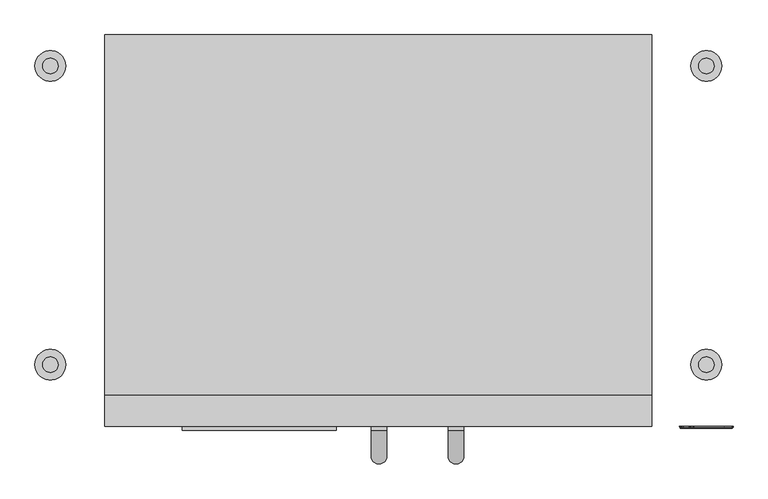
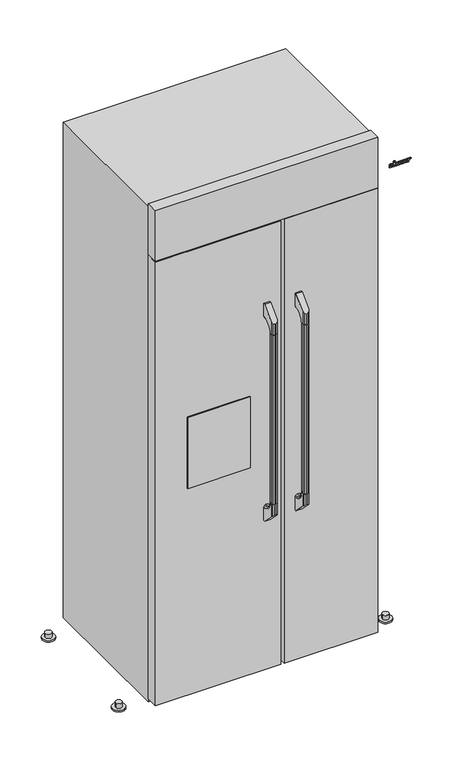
"""IFC4 building model written with IfcOpenShell, lengths in millimetres: proxy geometry, Refrigeration-Dacor-Epicure-48_42_Built_In : EF48NBSSCH."""

from ifc_helpers import new_model, si_unit, point, frame, frame_2d, origin, origin_with_axes, place, context, project, spatial, polyline, circle_curve, trimmed, segment, composite_curve, outline, extrude, source, transform, mapped, element, save
from ifc_brep_helpers import plane_surface, revolved_surface, spline_surface, advanced_brep


def specialty_equipment_6bfc070b(model_context):
    return source(origin(), model_context, "Body", "SolidModel", [
        extrude(outline(polyline([(2011.7943445, 496.877016), (2010.5604593, 497.878391), (2010.171875, 499.2560989), (2010.171875, 511.7948685), (2010.4323242, 512.9482864), (2011.251991, 513.97287), (2012.2388426, 514.436046), (2018.8783203, 515.8471929), (2018.8783203, 518.0456497), (2020.5898438, 518.41772), (2022.2641602, 518.7525833), (2022.2641602, 516.5201614), (2026.5057617, 517.4131302), (2030.7473633, 518.3060989), (2030.7473633, 514.3474352), (2022.2641602, 512.5462738), (2022.2641602, 502.2869491), (2021.8044832, 500.3060218), (2020.5344845, 498.7388452), (2018.6929847, 497.880322), (2013.336123, 496.7398635), (2011.7943445, 496.877016)]), holes=[polyline([(2013.5205078, 501.9350052), (2013.8714606, 501.2330996), (2014.6739258, 501.0420364), (2017.6348595, 501.6787964), (2018.5678527, 502.1290474), (2018.8783203, 503.0741012), (2018.8783203, 511.8320755), (2014.6298936, 510.9340341), (2013.7723775, 510.4187864), (2013.5205078, 509.4085923), (2013.5205078, 501.9350052)])]), frame((0.0, -350.8375, 0.0), z_axis=(0.0, 1.0, 0.0), x_axis=(0.0, 0.0, 1.0)), (0.0, 0.0, 1.0), 1.5875),
        extrude(outline(polyline([(2022.2641602, 520.0849851), (2018.8783203, 519.3650979), (2018.8783203, 530.0788078), (2017.8217624, 529.8538549), (2017.8217624, 519.1418688), (2017.5388672, 518.0456497), (2016.7947266, 517.152681), (2015.7157227, 516.6317825), (2014.5250977, 516.3713333), (2013.3344727, 516.1108841), (2011.8089844, 516.2597122), (2010.6183594, 517.227095), (2010.171875, 518.7153763), (2010.171875, 530.0635208), (2010.4323242, 531.1797318), (2011.1764648, 532.1099075), (2012.2554688, 532.630806), (2015.6413086, 533.3377396), (2019.0643555, 534.0818802), (2020.6270508, 533.9330521), (2021.8176758, 532.9656693), (2022.2641602, 531.514595), (2022.2641602, 520.0849851)]), holes=[polyline([(2014.5995117, 520.4641068), (2014.5995117, 529.1705521), (2013.5205078, 528.9473099), (2013.5205078, 520.2408646), (2014.5995117, 520.4641068)])]), frame((0.0, -350.8375, 0.0), z_axis=(0.0, 1.0, 0.0), x_axis=(0.0, 0.0, 1.0)), (0.0, 0.0, 1.0), 1.5875),
        extrude(outline(polyline([(2010.1535047, 537.0119526), (2010.1535047, 548.0038727), (2010.3752401, 548.777156), (2011.0722362, 549.1712144), (2012.3670138, 549.446239), (2013.2376148, 549.2129622), (2013.5205078, 548.226397), (2013.5205078, 539.7349988), (2013.8949249, 538.9521367), (2014.7128043, 538.7540141), (2017.8777256, 539.4286513), (2018.6463817, 539.837353), (2018.8783203, 540.9285384), (2018.8783203, 549.8518865), (2019.130028, 550.6265631), (2019.8374357, 551.0349851), (2021.1329359, 551.3105901), (2021.9592122, 551.0579721), (2022.2641602, 550.2201343), (2022.2641602, 538.3978958), (2022.0037109, 537.2816849), (2021.2595703, 536.3515091), (2020.1805664, 535.8306107), (2016.7575195, 535.1236771), (2013.3344727, 534.3795364), (2011.8089844, 534.5283646), (2010.5811523, 535.4957474), (2010.1535047, 537.0119526)])), frame((0.0, -350.8375, 0.0), z_axis=(0.0, 1.0, 0.0), x_axis=(0.0, 0.0, 1.0)), (0.0, 0.0, 1.0), 1.5875),
        extrude(outline(polyline([(2010.1535047, 553.7551166), (2010.1535047, 565.5306985), (2010.4202036, 566.6889369), (2011.1618825, 567.6058625), (2012.2388426, 568.1087873), (2019.0790652, 569.5616782), (2020.6208436, 569.4245015), (2021.8070237, 568.4618423), (2022.2641602, 566.9837711), (2022.2641602, 555.1410599), (2022.0037109, 553.9876419), (2021.2595703, 553.0574661), (2020.1805664, 552.5737747), (2016.7575195, 551.8296341), (2013.3344727, 551.1227005), (2011.8089844, 551.2343216), (2010.5811523, 552.2389114), (2010.1535047, 553.7551166)]), holes=[polyline([(2013.5205078, 563.4025467), (2013.5205078, 556.3316849), (2013.8925781, 555.5875443), (2014.7111328, 555.3643021), (2017.9088335, 556.0670934), (2018.6090587, 556.4394098), (2018.8783203, 557.2681117), (2018.8783203, 564.1439525), (2018.5470635, 565.0811293), (2017.6734773, 565.3018185), (2016.0505859, 564.9637161), (2014.5473546, 564.6438797), (2013.8001356, 564.2631526), (2013.5205078, 563.4025467)])]), frame((0.0, -350.8375, 0.0), z_axis=(0.0, 1.0, 0.0), x_axis=(0.0, 0.0, 1.0)), (0.0, 0.0, 1.0), 1.5875),
        extrude(outline(polyline([(2021.3463695, 571.781616), (2010.171875, 569.405565), (2010.171875, 573.4263733), (2017.5195038, 574.9896415), (2018.4999429, 575.5890962), (2018.8783203, 576.6590724), (2018.8783203, 581.9049579), (2022.2641602, 582.6248693), (2022.2641602, 576.9478784), (2021.5479431, 575.8456212), (2022.2641602, 575.1294011), (2022.2641602, 572.9846956), (2022.0328275, 572.1779426), (2021.3463695, 571.781616)])), frame((0.0, -350.8375, 0.0), z_axis=(0.0, 1.0, 0.0), x_axis=(0.0, 0.0, 1.0)), (0.0, 0.0, 1.0), 1.5875),
        advanced_brep(
        [(497.6561966, -349.25, 2009.3905273), (498.4747513, -349.25, 2009.2044922), (499.2670571, -349.25, 2008.9978037), (572.7473463, -349.25, 2008.9978037), (574.0050247, -349.25, 2009.4649414), (574.7119583, -349.25, 2010.6183594), (576.2002396, -349.25, 2017.7249023), (581.520845, -349.25, 2017.7249023), (582.5626419, -349.25, 2018.0969727), (583.1207474, -349.25, 2019.0271484), (583.6416458, -349.25, 2021.4456055), (583.5672318, -349.25, 2022.4129883), (582.9719193, -349.25, 2023.1199219), (582.0417435, -349.25, 2023.4175781), (518.0084427, -349.25, 2023.4175781), (519.3851029, -349.25, 2029.9660156), (519.3106888, -349.25, 2030.8961914), (518.7153763, -349.25, 2031.640332), (517.7852005, -349.25, 2031.9007813), (514.7342239, -349.25, 2031.9007813), (513.6924271, -349.25, 2031.565918), (513.1343216, -349.25, 2030.6357422), (511.6088333, -349.25, 2023.4175781), (502.2698685, -349.25, 2023.4175781), (500.3723099, -349.25, 2023.0827148), (498.7352005, -349.25, 2022.1525391), (497.4701614, -349.25, 2020.7386719), (496.7632279, -349.25, 2018.9527344), (495.6098099, -349.25, 2013.6321289), (495.6098099, -349.25, 2011.9206055), (496.3539505, -349.25, 2010.4323242), (497.6189896, -347.6625, 2009.2789063), (496.2423294, -347.6625, 2010.3579102), (495.4981888, -347.6625, 2011.8833984), (495.4981888, -347.6625, 2013.5949219), (496.6516068, -347.6625, 2018.9527344), (497.3585404, -347.6625, 2020.7758789), (498.6607864, -347.6625, 2022.2641602), (500.3351029, -347.6625, 2023.1943359), (502.2698685, -347.6625, 2023.5291992), (511.4972122, -347.6625, 2023.5291992), (513.0227005, -347.6625, 2030.6357422), (513.618013, -347.6625, 2031.640332), (514.7342239, -347.6625, 2032.0124023), (517.7852005, -347.6625, 2032.0124023), (518.7897904, -347.6625, 2031.7147461), (519.4223099, -347.6625, 2030.9333984), (519.4967239, -347.6625, 2029.9288086), (518.1572708, -347.6625, 2023.5291992), (582.0417435, -347.6625, 2023.5291992), (583.0091263, -347.6625, 2023.231543), (583.6788529, -347.6625, 2022.4501953), (583.7532669, -347.6625, 2021.4456055), (583.2323685, -347.6625, 2018.9899414), (582.637056, -347.6625, 2017.9853516), (581.520845, -347.6625, 2017.6132813), (576.3118607, -347.6625, 2017.6132813), (574.8235794, -347.6625, 2010.5811523), (574.0794388, -347.6625, 2009.3533203), (572.7027786, -347.6625, 2008.8696289), (499.330513, -347.6625, 2008.8696289), (498.4747513, -347.6625, 2009.0556641)],
        [
            (0, 1),
            (1, 2),
            (2, 3),
            (3, 4),
            (4, 5),
            (5, 6),
            (6, 7),
            (7, 8),
            (8, 9),
            (9, 10),
            (10, 11),
            (11, 12),
            (12, 13),
            (13, 14),
            (14, 15),
            (15, 16),
            (16, 17),
            (17, 18),
            (18, 19),
            (19, 20),
            (20, 21),
            (21, 22),
            (22, 23),
            (23, 24),
            (24, 25),
            (25, 26),
            (26, 27),
            (27, 28),
            (28, 29),
            (29, 30),
            (30, 0),
            (31, 32),
            (32, 33),
            (33, 34),
            (34, 35),
            (35, 36),
            (36, 37),
            (37, 38),
            (38, 39),
            (39, 40),
            (40, 41),
            (41, 42),
            (42, 43),
            (43, 44),
            (44, 45),
            (45, 46),
            (46, 47),
            (47, 48),
            (48, 49),
            (49, 50),
            (50, 51),
            (51, 52),
            (52, 53),
            (53, 54),
            (54, 55),
            (55, 56),
            (56, 57),
            (57, 58),
            (58, 59),
            (59, 60),
            (60, 61),
            (61, 31),
            (61, 1),
            (0, 31),
            (60, 2),
            (59, 3),
            (58, 4),
            (57, 5),
            (56, 6),
            (55, 7),
            (54, 8),
            (53, 9),
            (52, 10),
            (51, 11),
            (50, 12),
            (49, 13),
            (48, 14),
            (47, 15),
            (46, 16),
            (45, 17),
            (44, 18),
            (43, 19),
            (42, 20),
            (41, 21),
            (40, 22),
            (39, 23),
            (38, 24),
            (37, 25),
            (36, 26),
            (35, 27),
            (34, 28),
            (33, 29),
            (32, 30),
        ],
        [
            plane_surface(frame((532.3241388, -349.25, 2020.3004568), z_axis=(0.0, -1.0000000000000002, 0.0), x_axis=(0.9374252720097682, 0.0, 0.3481865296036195))),
            plane_surface(frame((532.3307493, -347.6625, 2020.3017893), z_axis=(0.0, 1.0000000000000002, 0.0), x_axis=(0.9374252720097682, 0.0, 0.3481865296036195))),
            spline_surface(1, 1, [[(497.6189896, -347.6625, 2009.2789063), (497.6561966, -349.25, 2009.3905273)], [(498.4747513, -347.6625, 2009.0556641), (498.4747513, -349.25, 2009.2044922)]], [2, 2], [2, 2], [0.0, 1.0], [0.0, 1.0]),
            spline_surface(1, 1, [[(498.4747513, -347.6625, 2009.0556641), (498.4747513, -349.25, 2009.2044922)], [(499.330513, -347.6625, 2008.8696289), (499.2670571, -349.25, 2008.9978037)]], [2, 2], [2, 2], [0.0, 1.0], [0.0, 1.0]),
            plane_surface(frame((536.0166458, -347.6625, 2008.8696289), z_axis=(0.0, -0.0804781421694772, -0.9967563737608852), x_axis=(1.0, 0.0, 0.0))),
            spline_surface(1, 1, [[(572.7027786, -347.6625, 2008.8696289), (572.7473463, -349.25, 2008.9978037)], [(574.0794388, -347.6625, 2009.3533203), (574.0050247, -349.25, 2009.4649414)]], [2, 2], [2, 2], [0.0, 1.0], [0.0, 1.0]),
            spline_surface(1, 1, [[(574.0794388, -347.6625, 2009.3533203), (574.0050247, -349.25, 2009.4649414)], [(574.8235794, -347.6625, 2010.5811523), (574.7119583, -349.25, 2010.6183594)]], [2, 2], [2, 2], [0.0, 1.0], [0.0, 1.0]),
            spline_surface(1, 1, [[(574.8235794, -347.6625, 2010.5811523), (574.7119583, -349.25, 2010.6183594)], [(576.3118607, -347.6625, 2017.6132813), (576.2002396, -349.25, 2017.7249023)]], [2, 2], [2, 2], [0.0, 1.0], [0.0, 1.0]),
            plane_surface(frame((578.9163529, -347.6625, 2017.6132813), z_axis=(0.0, -0.07013933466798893, -0.9975372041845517), x_axis=(1.0, 0.0, 0.0))),
            spline_surface(1, 1, [[(581.520845, -347.6625, 2017.6132813), (581.520845, -349.25, 2017.7249023)], [(582.637056, -347.6625, 2017.9853516), (582.5626419, -349.25, 2018.0969727)]], [2, 2], [2, 2], [0.0, 1.0], [0.0, 1.0]),
            spline_surface(1, 1, [[(582.637056, -347.6625, 2017.9853516), (582.5626419, -349.25, 2018.0969727)], [(583.2323685, -347.6625, 2018.9899414), (583.1207474, -349.25, 2019.0271484)]], [2, 2], [2, 2], [0.0, 1.0], [0.0, 1.0]),
            spline_surface(1, 1, [[(583.2323685, -347.6625, 2018.9899414), (583.1207474, -349.25, 2019.0271484)], [(583.7532669, -347.6625, 2021.4456055), (583.6416458, -349.25, 2021.4456055)]], [2, 2], [2, 2], [0.0, 1.0], [0.0, 1.0]),
            spline_surface(1, 1, [[(583.7532669, -347.6625, 2021.4456055), (583.6416458, -349.25, 2021.4456055)], [(583.6788529, -347.6625, 2022.4501953), (583.5672318, -349.25, 2022.4129883)]], [2, 2], [2, 2], [0.0, 1.0], [0.0, 1.0]),
            spline_surface(1, 1, [[(583.6788529, -347.6625, 2022.4501953), (583.5672318, -349.25, 2022.4129883)], [(583.0091263, -347.6625, 2023.231543), (582.9719193, -349.25, 2023.1199219)]], [2, 2], [2, 2], [0.0, 1.0], [0.0, 1.0]),
            spline_surface(1, 1, [[(583.0091263, -347.6625, 2023.231543), (582.9719193, -349.25, 2023.1199219)], [(582.0417435, -347.6625, 2023.5291992), (582.0417435, -349.25, 2023.4175781)]], [2, 2], [2, 2], [0.0, 1.0], [0.0, 1.0]),
            plane_surface(frame((550.0995072, -347.6625, 2023.5291992), z_axis=(0.0, -0.07013933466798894, 0.9975372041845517), x_axis=(-1.0, 0.0, 0.0))),
            spline_surface(1, 1, [[(518.1572708, -347.6625, 2023.5291992), (518.0084427, -349.25, 2023.4175781)], [(519.4967239, -347.6625, 2029.9288086), (519.3851029, -349.25, 2029.9660156)]], [2, 2], [2, 2], [0.0, 1.0], [0.0, 1.0]),
            spline_surface(1, 1, [[(519.4967239, -347.6625, 2029.9288086), (519.3851029, -349.25, 2029.9660156)], [(519.4223099, -347.6625, 2030.9333984), (519.3106888, -349.25, 2030.8961914)]], [2, 2], [2, 2], [0.0, 1.0], [0.0, 1.0]),
            spline_surface(1, 1, [[(519.4223099, -347.6625, 2030.9333984), (519.3106888, -349.25, 2030.8961914)], [(518.7897904, -347.6625, 2031.7147461), (518.7153763, -349.25, 2031.640332)]], [2, 2], [2, 2], [0.0, 1.0], [0.0, 1.0]),
            spline_surface(1, 1, [[(518.7897904, -347.6625, 2031.7147461), (518.7153763, -349.25, 2031.640332)], [(517.7852005, -347.6625, 2032.0124023), (517.7852005, -349.25, 2031.9007813)]], [2, 2], [2, 2], [0.0, 1.0], [0.0, 1.0]),
            plane_surface(frame((516.2597122, -347.6625, 2032.0124023), z_axis=(0.0, -0.07013933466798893, 0.9975372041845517), x_axis=(-1.0, 0.0, 0.0))),
            spline_surface(1, 1, [[(514.7342239, -347.6625, 2032.0124023), (514.7342239, -349.25, 2031.9007813)], [(513.618013, -347.6625, 2031.640332), (513.6924271, -349.25, 2031.565918)]], [2, 2], [2, 2], [0.0, 1.0], [0.0, 1.0]),
            spline_surface(1, 1, [[(513.618013, -347.6625, 2031.640332), (513.6924271, -349.25, 2031.565918)], [(513.0227005, -347.6625, 2030.6357422), (513.1343216, -349.25, 2030.6357422)]], [2, 2], [2, 2], [0.0, 1.0], [0.0, 1.0]),
            spline_surface(1, 1, [[(513.0227005, -347.6625, 2030.6357422), (513.1343216, -349.25, 2030.6357422)], [(511.4972122, -347.6625, 2023.5291992), (511.6088333, -349.25, 2023.4175781)]], [2, 2], [2, 2], [0.0, 1.0], [0.0, 1.0]),
            plane_surface(frame((506.8835404, -347.6625, 2023.5291992), z_axis=(0.0, -0.07013933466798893, 0.9975372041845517), x_axis=(-1.0, 0.0, 0.0))),
            spline_surface(1, 1, [[(502.2698685, -347.6625, 2023.5291992), (502.2698685, -349.25, 2023.4175781)], [(500.3351029, -347.6625, 2023.1943359), (500.3723099, -349.25, 2023.0827148)]], [2, 2], [2, 2], [0.0, 1.0], [0.0, 1.0]),
            spline_surface(1, 1, [[(500.3351029, -347.6625, 2023.1943359), (500.3723099, -349.25, 2023.0827148)], [(498.6607864, -347.6625, 2022.2641602), (498.7352005, -349.25, 2022.1525391)]], [2, 2], [2, 2], [0.0, 1.0], [0.0, 1.0]),
            spline_surface(1, 1, [[(498.6607864, -347.6625, 2022.2641602), (498.7352005, -349.25, 2022.1525391)], [(497.3585404, -347.6625, 2020.7758789), (497.4701614, -349.25, 2020.7386719)]], [2, 2], [2, 2], [0.0, 1.0], [0.0, 1.0]),
            spline_surface(1, 1, [[(497.3585404, -347.6625, 2020.7758789), (497.4701614, -349.25, 2020.7386719)], [(496.6516068, -347.6625, 2018.9527344), (496.7632279, -349.25, 2018.9527344)]], [2, 2], [2, 2], [0.0, 1.0], [0.0, 1.0]),
            spline_surface(1, 1, [[(496.6516068, -347.6625, 2018.9527344), (496.7632279, -349.25, 2018.9527344)], [(495.4981888, -347.6625, 2013.5949219), (495.6098099, -349.25, 2013.6321289)]], [2, 2], [2, 2], [0.0, 1.0], [0.0, 1.0]),
            plane_surface(frame((495.4981888, -347.6625, 2012.7391602), z_axis=(-0.9975372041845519, -0.0701393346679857, 0.0), x_axis=(0.0, 0.0, -1.0))),
            spline_surface(1, 1, [[(495.4981888, -347.6625, 2011.8833984), (495.6098099, -349.25, 2011.9206055)], [(496.2423294, -347.6625, 2010.3579102), (496.3539505, -349.25, 2010.4323242)]], [2, 2], [2, 2], [0.0, 1.0], [0.0, 1.0]),
            spline_surface(1, 1, [[(496.2423294, -347.6625, 2010.3579102), (496.3539505, -349.25, 2010.4323242)], [(497.6189896, -347.6625, 2009.2789063), (497.6561966, -349.25, 2009.3905273)]], [2, 2], [2, 2], [0.0, 1.0], [0.0, 1.0]),
        ],
        [
            (0, [[1, 2, 3, 4, 5, 6, 7, 8, 9, 10, 11, 12, 13, 14, 15, 16, 17, 18, 19, 20, 21, 22, 23, 24, 25, 26, 27, 28, 29, 30, 31]]),
            (1, [[32, 33, 34, 35, 36, 37, 38, 39, 40, 41, 42, 43, 44, 45, 46, 47, 48, 49, 50, 51, 52, 53, 54, 55, 56, 57, 58, 59, 60, 61, 62]]),
            (2, [[-62, 63, -1, 64]]),
            (3, [[-61, 65, -2, -63]]),
            (4, [[-60, 66, -3, -65]]),
            (5, [[-59, 67, -4, -66]]),
            (6, [[-58, 68, -5, -67]]),
            (7, [[-57, 69, -6, -68]]),
            (8, [[-56, 70, -7, -69]]),
            (9, [[-55, 71, -8, -70]]),
            (10, [[-54, 72, -9, -71]]),
            (11, [[-53, 73, -10, -72]]),
            (12, [[-52, 74, -11, -73]]),
            (13, [[-51, 75, -12, -74]]),
            (14, [[-50, 76, -13, -75]]),
            (15, [[-49, 77, -14, -76]]),
            (16, [[-48, 78, -15, -77]]),
            (17, [[-47, 79, -16, -78]]),
            (18, [[-46, 80, -17, -79]]),
            (19, [[-45, 81, -18, -80]]),
            (20, [[-44, 82, -19, -81]]),
            (21, [[-43, 83, -20, -82]]),
            (22, [[-42, 84, -21, -83]]),
            (23, [[-41, 85, -22, -84]]),
            (24, [[-40, 86, -23, -85]]),
            (25, [[-39, 87, -24, -86]]),
            (26, [[-38, 88, -25, -87]]),
            (27, [[-37, 89, -26, -88]]),
            (28, [[-36, 90, -27, -89]]),
            (29, [[-35, 91, -28, -90]]),
            (30, [[-34, 92, -29, -91]]),
            (31, [[-33, 93, -30, -92]]),
            (32, [[-32, -64, -31, -93]]),
        ],
    ),
        extrude(outline(polyline([(137.1470453, -406.1720453), (131.2529547, -409.575), (124.4470453, -409.575), (118.5529547, -406.1720453), (115.15, -400.2779547), (115.15, -393.4720453), (118.5529547, -387.5779547), (124.4470453, -384.175), (131.2529547, -384.175), (137.1470453, -387.5779547), (140.55, -393.4720453), (140.55, -400.2779547), (137.1470453, -406.1720453)])), frame((0.0, 0.0, 781.05), z_axis=(0.0, 0.0, 1.0), x_axis=(1.0, 0.0, 0.0)), (0.0, 0.0, 1.0), 723.9),
        advanced_brep(
        [(115.15, -347.6625, 679.45), (140.55, -347.6625, 679.45), (140.55, -354.0125, 679.45), (115.15, -354.0125, 679.45), (115.15, -400.2779547, 781.05), (118.5529547, -406.1720453, 781.05), (124.4470453, -409.575, 781.05), (131.2529547, -409.575, 781.05), (137.1470453, -406.1720453, 781.05), (140.55, -400.2779547, 781.05), (140.55, -393.4720453, 781.05), (137.1470453, -387.5779547, 781.05), (131.2529547, -384.175, 781.05), (124.4470453, -384.175, 781.05), (118.5529547, -387.5779547, 781.05), (115.15, -393.4720453, 781.05), (115.15, -347.6625, 735.2404547), (118.5529547, -347.6625, 741.1345453), (124.4470453, -347.6625, 744.5375), (131.2529547, -347.6625, 744.5375), (137.1470453, -347.6625, 741.1345453), (140.55, -347.6625, 735.2404547), (140.55, -400.2779547, 725.7154547), (137.1470453, -406.1720453, 731.6095453), (131.2529547, -409.575, 735.0125), (124.4470453, -409.575, 735.0125), (118.5529547, -406.1720453, 731.6095453), (115.15, -400.2779547, 725.7154547)],
        [
            (0, 1),
            (1, 2),
            (2, 3),
            (3, 0),
            (4, 5),
            (5, 6),
            (6, 7),
            (7, 8),
            (8, 9),
            (9, 10),
            (10, 11),
            (11, 12),
            (12, 13),
            (13, 14),
            (14, 15),
            (15, 4),
            (0, 16),
            (16, 17),
            (17, 18),
            (18, 19),
            (19, 20),
            (20, 21),
            (21, 1),
            (21, 10, circle_curve(frame((140.55, -347.6625, 781.05), z_axis=(-1.0, 0.0, 0.0), x_axis=(0.0, 0.0, -1.0)), 45.8095453)),
            (9, 22),
            (22, 2),
            (8, 23),
            (23, 22),
            (7, 24),
            (24, 23),
            (6, 25),
            (25, 24),
            (5, 26),
            (26, 25),
            (4, 27),
            (27, 26),
            (3, 27),
            (15, 16, circle_curve(frame((115.15, -347.6625, 781.05), z_axis=(1.0, 0.0, 0.0), x_axis=(0.0, 0.0, -1.0)), 45.8095453)),
            (20, 11, circle_curve(frame((137.1470453, -347.6625, 781.05), z_axis=(-1.0, 0.0, 0.0), x_axis=(0.0, 0.0, -1.0)), 39.9154547)),
            (19, 12, circle_curve(frame((131.2529547, -347.6625, 781.05), z_axis=(-1.0, 0.0, 0.0), x_axis=(0.0, 0.0, -1.0)), 36.5125)),
            (18, 13, circle_curve(frame((124.4470453, -347.6625, 781.05), z_axis=(-1.0, 0.0, 0.0), x_axis=(0.0, 0.0, -1.0)), 36.5125)),
            (17, 14, circle_curve(frame((118.5529547, -347.6625, 781.05), z_axis=(-1.0, 0.0, 0.0), x_axis=(0.0, 0.0, -1.0)), 39.9154547)),
        ],
        [
            plane_surface(frame((140.0884554, -347.6625, 679.45), z_axis=(0.0, 0.0, -1.0), x_axis=(1.0, 0.0, 0.0))),
            plane_surface(frame((140.0884554, -347.6625, 781.05), z_axis=(0.0, 0.0, 1.0), x_axis=(-1.0, 0.0, 0.0))),
            plane_surface(frame((115.15, -347.6625, 679.45), z_axis=(0.0, 1.0, 0.0), x_axis=(0.0, 0.0, 1.0))),
            plane_surface(frame((140.55, -347.6625, 679.45), z_axis=(1.0, 0.0, 0.0), x_axis=(0.0, 0.0, 1.0))),
            plane_surface(frame((140.55, -400.2779547, 679.45), z_axis=(0.8660254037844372, -0.5000000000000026, 0.0), x_axis=(0.0, 0.0, 1.0))),
            plane_surface(frame((137.1470453, -406.1720453, 679.45), z_axis=(0.49999999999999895, -0.8660254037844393, 0.0), x_axis=(0.0, 0.0, 1.0))),
            plane_surface(frame((131.2529547, -409.575, 679.45), z_axis=(0.0, -1.0, 0.0), x_axis=(0.0, 0.0, 1.0))),
            plane_surface(frame((124.4470453, -409.575, 679.45), z_axis=(-0.5000000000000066, -0.8660254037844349, 0.0), x_axis=(0.0, 0.0, 1.0))),
            plane_surface(frame((118.5529547, -406.1720453, 679.45), z_axis=(-0.8660254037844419, -0.49999999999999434, 0.0), x_axis=(0.0, 0.0, 1.0))),
            plane_surface(frame((115.15, -400.2779547, 679.45), z_axis=(-1.0, 0.0, 0.0), x_axis=(0.0, 0.0, 1.0))),
            plane_surface(frame((115.15, -409.575, 735.0125), z_axis=(0.0, -0.7071067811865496, -0.7071067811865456), x_axis=(1.0, 0.0, 0.0))),
            revolved_surface(polyline([(140.55, -347.6625, 735.2404547), (137.1470453, -347.6625, 741.1345453)]), (115.15, -347.6625, 781.05), (1.0, 0.0, 0.0)),
            revolved_surface(polyline([(137.1470453, -347.6625, 741.1345453), (131.2529547, -347.6625, 744.5375)]), (115.15, -347.6625, 781.05), (1.0, 0.0, 0.0)),
            revolved_surface(polyline([(131.2529547, -347.6625, 744.5374999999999), (124.4470453, -347.6625, 744.5374999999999)]), (115.15, -347.6625, 781.05), (1.0, 0.0, 0.0)),
            revolved_surface(polyline([(124.4470453, -347.6625, 744.5375), (118.5529547, -347.6625, 741.1345453)]), (115.15, -347.6625, 781.05), (1.0, 0.0, 0.0)),
            revolved_surface(polyline([(118.5529547, -347.6625, 741.1345453), (115.15, -347.6625, 735.2404547)]), (115.15, -347.6625, 781.05), (1.0, 0.0, 0.0)),
        ],
        [
            (0, [[1, 2, 3, 4]]),
            (1, [[5, 6, 7, 8, 9, 10, 11, 12, 13, 14, 15, 16]]),
            (2, [[-1, 17, 18, 19, 20, 21, 22, 23]]),
            (3, [[-2, -23, 24, -10, 25, 26]]),
            (4, [[-9, 27, 28, -25]]),
            (5, [[-8, 29, 30, -27]]),
            (6, [[-7, 31, 32, -29]]),
            (7, [[-6, 33, 34, -31]]),
            (8, [[-5, 35, 36, -33]]),
            (9, [[-4, 37, -35, -16, 38, -17]]),
            (10, [[-3, -26, -28, -30, -32, -34, -36, -37]]),
            (11, [[39, -11, -24, -22]]),
            (12, [[-39, -21, 40, -12]]),
            (13, [[-40, -20, 41, -13]]),
            (14, [[-41, -19, 42, -14]]),
            (15, [[-42, -18, -38, -15]]),
        ],
    ),
        advanced_brep(
        [(140.55, -347.6625, 1606.55), (115.15, -347.6625, 1606.55), (115.15, -354.0125, 1606.55), (140.55, -354.0125, 1606.55), (140.55, -400.2779547, 1504.95), (137.1470453, -406.1720453, 1504.95), (131.2529547, -409.575, 1504.95), (124.4470453, -409.575, 1504.95), (118.5529547, -406.1720453, 1504.95), (115.15, -400.2779547, 1504.95), (115.15, -393.4720453, 1504.95), (118.5529547, -387.5779547, 1504.95), (124.4470453, -384.175, 1504.95), (131.2529547, -384.175, 1504.95), (137.1470453, -387.5779547, 1504.95), (140.55, -393.4720453, 1504.95), (115.15, -347.6625, 1550.7595453), (115.15, -400.2779547, 1560.2845453), (118.5529547, -406.1720453, 1554.3904547), (124.4470453, -409.575, 1550.9875), (131.2529547, -409.575, 1550.9875), (137.1470453, -406.1720453, 1554.3904547), (140.55, -400.2779547, 1560.2845453), (140.55, -347.6625, 1550.7595453), (137.1470453, -347.6625, 1544.8654547), (131.2529547, -347.6625, 1541.4625), (124.4470453, -347.6625, 1541.4625), (118.5529547, -347.6625, 1544.8654547)],
        [
            (0, 1),
            (1, 2),
            (2, 3),
            (3, 0),
            (4, 5),
            (5, 6),
            (6, 7),
            (7, 8),
            (8, 9),
            (9, 10),
            (10, 11),
            (11, 12),
            (12, 13),
            (13, 14),
            (14, 15),
            (15, 4),
            (1, 16),
            (16, 10, circle_curve(frame((115.15, -347.6625, 1504.95), z_axis=(1.0, 0.0, 0.0), x_axis=(0.0, 0.0, 1.0)), 45.8095453)),
            (9, 17),
            (17, 2),
            (8, 18),
            (18, 17),
            (7, 19),
            (19, 18),
            (6, 20),
            (20, 19),
            (5, 21),
            (21, 20),
            (4, 22),
            (22, 21),
            (3, 22),
            (15, 23, circle_curve(frame((140.55, -347.6625, 1504.95), z_axis=(-1.0, 0.0, 0.0), x_axis=(0.0, 0.0, 1.0)), 45.8095453)),
            (23, 0),
            (23, 24),
            (24, 25),
            (25, 26),
            (26, 27),
            (27, 16),
            (27, 11, circle_curve(frame((118.5529547, -347.6625, 1504.95), z_axis=(1.0, 0.0, 0.0), x_axis=(0.0, 0.0, 1.0)), 39.9154547)),
            (26, 12, circle_curve(frame((124.4470453, -347.6625, 1504.95), z_axis=(1.0, 0.0, 0.0), x_axis=(0.0, 0.0, 1.0)), 36.5125)),
            (25, 13, circle_curve(frame((131.2529547, -347.6625, 1504.95), z_axis=(1.0, 0.0, 0.0), x_axis=(0.0, 0.0, 1.0)), 36.5125)),
            (24, 14, circle_curve(frame((137.1470453, -347.6625, 1504.95), z_axis=(1.0, 0.0, 0.0), x_axis=(0.0, 0.0, 1.0)), 39.9154547)),
        ],
        [
            plane_surface(frame((115.15, -347.6625, 1606.55), z_axis=(0.0, 0.0, 1.0), x_axis=(0.0, -1.0, 0.0))),
            plane_surface(frame((115.15, -347.6625, 1504.95), z_axis=(0.0, 0.0, -1.0), x_axis=(0.0, 1.0, 0.0))),
            plane_surface(frame((115.15, -347.6625, 1606.55), z_axis=(-1.0, 0.0, 0.0), x_axis=(0.0, 0.0, -1.0))),
            plane_surface(frame((115.15, -400.2779547, 1606.55), z_axis=(-0.8660254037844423, -0.4999999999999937, 0.0), x_axis=(0.0, 0.0, -1.0))),
            plane_surface(frame((118.5529547, -406.1720453, 1606.55), z_axis=(-0.5000000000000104, -0.8660254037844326, 0.0), x_axis=(0.0, 0.0, -1.0))),
            plane_surface(frame((124.4470453, -409.575, 1606.55), z_axis=(0.0, -1.0, 0.0), x_axis=(0.0, 0.0, -1.0))),
            plane_surface(frame((131.2529547, -409.575, 1606.55), z_axis=(0.49999999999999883, -0.8660254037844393, 0.0), x_axis=(0.0, 0.0, -1.0))),
            plane_surface(frame((137.1470453, -406.1720453, 1606.55), z_axis=(0.8660254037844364, -0.5000000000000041, 0.0), x_axis=(0.0, 0.0, -1.0))),
            plane_surface(frame((140.55, -400.2779547, 1606.55), z_axis=(1.0, 0.0, 0.0), x_axis=(0.0, 0.0, -1.0))),
            plane_surface(frame((140.55, -347.6625, 1606.55), z_axis=(0.0, 1.0, 0.0), x_axis=(0.0, 0.0, -1.0))),
            plane_surface(frame((115.15, -354.0125, 1606.55), z_axis=(0.0, -0.7071067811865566, 0.7071067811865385), x_axis=(1.0, 0.0, 0.0))),
            revolved_surface(polyline([(115.15, -347.6625, 1550.7595453), (118.5529547, -347.6625, 1544.8654547)]), (115.15, -347.6625, 1504.95), (-1.0, 0.0, 0.0)),
            revolved_surface(polyline([(118.5529547, -347.6625, 1544.8654547), (124.4470453, -347.6625, 1541.4625)]), (115.15, -347.6625, 1504.95), (-1.0, 0.0, 0.0)),
            revolved_surface(polyline([(124.4470453, -347.6625, 1541.4625), (131.2529547, -347.6625, 1541.4625)]), (115.15, -347.6625, 1504.95), (-1.0, 0.0, 0.0)),
            revolved_surface(polyline([(131.2529547, -347.6625, 1541.4625), (137.1470453, -347.6625, 1544.8654547)]), (115.15, -347.6625, 1504.95), (-1.0, 0.0, 0.0)),
            revolved_surface(polyline([(137.1470453, -347.6625, 1544.8654547), (140.55, -347.6625, 1550.7595453)]), (115.15, -347.6625, 1504.95), (-1.0, 0.0, 0.0)),
        ],
        [
            (0, [[1, 2, 3, 4]]),
            (1, [[5, 6, 7, 8, 9, 10, 11, 12, 13, 14, 15, 16]]),
            (2, [[-2, 17, 18, -10, 19, 20]]),
            (3, [[-9, 21, 22, -19]]),
            (4, [[-8, 23, 24, -21]]),
            (5, [[-7, 25, 26, -23]]),
            (6, [[-6, 27, 28, -25]]),
            (7, [[-5, 29, 30, -27]]),
            (8, [[-4, 31, -29, -16, 32, 33]]),
            (9, [[-1, -33, 34, 35, 36, 37, 38, -17]]),
            (10, [[-3, -20, -22, -24, -26, -28, -30, -31]]),
            (11, [[39, -11, -18, -38]]),
            (12, [[-39, -37, 40, -12]]),
            (13, [[-40, -36, 41, -13]]),
            (14, [[-41, -35, 42, -14]]),
            (15, [[-42, -34, -32, -15]]),
        ],
    ),
        extrude(outline(polyline([(10.1470453, -406.1720453), (4.2529547, -409.575), (-2.5529547, -409.575), (-8.4470453, -406.1720453), (-11.85, -400.2779547), (-11.85, -393.4720453), (-8.4470453, -387.5779547), (-2.5529547, -384.175), (4.2529547, -384.175), (10.1470453, -387.5779547), (13.55, -393.4720453), (13.55, -400.2779547), (10.1470453, -406.1720453)])), frame((0.0, 0.0, 781.05), z_axis=(0.0, 0.0, 1.0), x_axis=(1.0, 0.0, 0.0)), (0.0, 0.0, 1.0), 723.9),
        advanced_brep(
        [(-11.85, -347.6625, 679.45), (13.55, -347.6625, 679.45), (13.55, -354.0125, 679.45), (-11.85, -354.0125, 679.45), (-11.85, -400.2779547, 781.05), (-8.4470453, -406.1720453, 781.05), (-2.5529547, -409.575, 781.05), (4.2529547, -409.575, 781.05), (10.1470453, -406.1720453, 781.05), (13.55, -400.2779547, 781.05), (13.55, -393.4720453, 781.05), (10.1470453, -387.5779547, 781.05), (4.2529547, -384.175, 781.05), (-2.5529547, -384.175, 781.05), (-8.4470453, -387.5779547, 781.05), (-11.85, -393.4720453, 781.05), (-11.85, -347.6625, 735.2404547), (-8.4470453, -347.6625, 741.1345453), (-2.5529547, -347.6625, 744.5375), (4.2529547, -347.6625, 744.5375), (10.1470453, -347.6625, 741.1345453), (13.55, -347.6625, 735.2404547), (13.55, -400.2779547, 725.7154547), (10.1470453, -406.1720453, 731.6095453), (4.2529547, -409.575, 735.0125), (-2.5529547, -409.575, 735.0125), (-8.4470453, -406.1720453, 731.6095453), (-11.85, -400.2779547, 725.7154547)],
        [
            (0, 1),
            (1, 2),
            (2, 3),
            (3, 0),
            (4, 5),
            (5, 6),
            (6, 7),
            (7, 8),
            (8, 9),
            (9, 10),
            (10, 11),
            (11, 12),
            (12, 13),
            (13, 14),
            (14, 15),
            (15, 4),
            (0, 16),
            (16, 17),
            (17, 18),
            (18, 19),
            (19, 20),
            (20, 21),
            (21, 1),
            (21, 10, circle_curve(frame((13.55, -347.6625, 781.05), z_axis=(-1.0, 0.0, 0.0), x_axis=(0.0, 0.0, -1.0)), 45.8095453)),
            (9, 22),
            (22, 2),
            (8, 23),
            (23, 22),
            (7, 24),
            (24, 23),
            (6, 25),
            (25, 24),
            (5, 26),
            (26, 25),
            (4, 27),
            (27, 26),
            (3, 27),
            (15, 16, circle_curve(frame((-11.85, -347.6625, 781.05), z_axis=(1.0, 0.0, 0.0), x_axis=(0.0, 0.0, -1.0)), 45.8095453)),
            (20, 11, circle_curve(frame((10.1470453, -347.6625, 781.05), z_axis=(-1.0, 0.0, 0.0), x_axis=(0.0, 0.0, -1.0)), 39.9154547)),
            (19, 12, circle_curve(frame((4.2529547, -347.6625, 781.05), z_axis=(-1.0, 0.0, 0.0), x_axis=(0.0, 0.0, -1.0)), 36.5125)),
            (18, 13, circle_curve(frame((-2.5529547, -347.6625, 781.05), z_axis=(-1.0, 0.0, 0.0), x_axis=(0.0, 0.0, -1.0)), 36.5125)),
            (17, 14, circle_curve(frame((-8.4470453, -347.6625, 781.05), z_axis=(-1.0, 0.0, 0.0), x_axis=(0.0, 0.0, -1.0)), 39.9154547)),
        ],
        [
            plane_surface(frame((13.0884554, -347.6625, 679.45), z_axis=(0.0, 0.0, -1.0), x_axis=(1.0, 0.0, 0.0))),
            plane_surface(frame((13.0884554, -347.6625, 781.05), z_axis=(0.0, 0.0, 1.0), x_axis=(-1.0, 0.0, 0.0))),
            plane_surface(frame((-11.85, -347.6625, 679.45), z_axis=(0.0, 1.0, 0.0), x_axis=(0.0, 0.0, 1.0))),
            plane_surface(frame((13.55, -347.6625, 679.45), z_axis=(1.0, 0.0, 0.0), x_axis=(0.0, 0.0, 1.0))),
            plane_surface(frame((13.55, -400.2779547, 679.45), z_axis=(0.8660254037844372, -0.5000000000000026, 0.0), x_axis=(0.0, 0.0, 1.0))),
            plane_surface(frame((10.1470453, -406.1720453, 679.45), z_axis=(0.49999999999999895, -0.8660254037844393, 0.0), x_axis=(0.0, 0.0, 1.0))),
            plane_surface(frame((4.2529547, -409.575, 679.45), z_axis=(0.0, -1.0, 0.0), x_axis=(0.0, 0.0, 1.0))),
            plane_surface(frame((-2.5529547, -409.575, 679.45), z_axis=(-0.5000000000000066, -0.8660254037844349, 0.0), x_axis=(0.0, 0.0, 1.0))),
            plane_surface(frame((-8.4470453, -406.1720453, 679.45), z_axis=(-0.8660254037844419, -0.49999999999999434, 0.0), x_axis=(0.0, 0.0, 1.0))),
            plane_surface(frame((-11.85, -400.2779547, 679.45), z_axis=(-1.0, 0.0, 0.0), x_axis=(0.0, 0.0, 1.0))),
            plane_surface(frame((-11.85, -409.575, 735.0125), z_axis=(0.0, -0.7071067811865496, -0.7071067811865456), x_axis=(1.0, 0.0, 0.0))),
            revolved_surface(polyline([(13.55, -347.6625, 735.2404547), (10.1470453, -347.6625, 741.1345453)]), (-11.85, -347.6625, 781.05), (1.0, 0.0, 0.0)),
            revolved_surface(polyline([(10.1470453, -347.6625, 741.1345453), (4.2529547, -347.6625, 744.5375)]), (-11.85, -347.6625, 781.05), (1.0, 0.0, 0.0)),
            revolved_surface(polyline([(4.252954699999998, -347.6625, 744.5374999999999), (-2.552954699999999, -347.6625, 744.5374999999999)]), (-11.85, -347.6625, 781.05), (1.0, 0.0, 0.0)),
            revolved_surface(polyline([(-2.5529547, -347.6625, 744.5375), (-8.4470453, -347.6625, 741.1345453)]), (-11.85, -347.6625, 781.05), (1.0, 0.0, 0.0)),
            revolved_surface(polyline([(-8.4470453, -347.6625, 741.1345453), (-11.85, -347.6625, 735.2404547)]), (-11.85, -347.6625, 781.05), (1.0, 0.0, 0.0)),
        ],
        [
            (0, [[1, 2, 3, 4]]),
            (1, [[5, 6, 7, 8, 9, 10, 11, 12, 13, 14, 15, 16]]),
            (2, [[-1, 17, 18, 19, 20, 21, 22, 23]]),
            (3, [[-2, -23, 24, -10, 25, 26]]),
            (4, [[-9, 27, 28, -25]]),
            (5, [[-8, 29, 30, -27]]),
            (6, [[-7, 31, 32, -29]]),
            (7, [[-6, 33, 34, -31]]),
            (8, [[-5, 35, 36, -33]]),
            (9, [[-4, 37, -35, -16, 38, -17]]),
            (10, [[-3, -26, -28, -30, -32, -34, -36, -37]]),
            (11, [[39, -11, -24, -22]]),
            (12, [[-39, -21, 40, -12]]),
            (13, [[-40, -20, 41, -13]]),
            (14, [[-41, -19, 42, -14]]),
            (15, [[-42, -18, -38, -15]]),
        ],
    ),
        advanced_brep(
        [(13.55, -347.6625, 1606.55), (-11.85, -347.6625, 1606.55), (-11.85, -354.0125, 1606.55), (13.55, -354.0125, 1606.55), (13.55, -400.2779547, 1504.95), (10.1470453, -406.1720453, 1504.95), (4.2529547, -409.575, 1504.95), (-2.5529547, -409.575, 1504.95), (-8.4470453, -406.1720453, 1504.95), (-11.85, -400.2779547, 1504.95), (-11.85, -393.4720453, 1504.95), (-8.4470453, -387.5779547, 1504.95), (-2.5529547, -384.175, 1504.95), (4.2529547, -384.175, 1504.95), (10.1470453, -387.5779547, 1504.95), (13.55, -393.4720453, 1504.95), (-11.85, -347.6625, 1550.7595453), (-11.85, -400.2779547, 1560.2845453), (-8.4470453, -406.1720453, 1554.3904547), (-2.5529547, -409.575, 1550.9875), (4.2529547, -409.575, 1550.9875), (10.1470453, -406.1720453, 1554.3904547), (13.55, -400.2779547, 1560.2845453), (13.55, -347.6625, 1550.7595453), (10.1470453, -347.6625, 1544.8654547), (4.2529547, -347.6625, 1541.4625), (-2.5529547, -347.6625, 1541.4625), (-8.4470453, -347.6625, 1544.8654547)],
        [
            (0, 1),
            (1, 2),
            (2, 3),
            (3, 0),
            (4, 5),
            (5, 6),
            (6, 7),
            (7, 8),
            (8, 9),
            (9, 10),
            (10, 11),
            (11, 12),
            (12, 13),
            (13, 14),
            (14, 15),
            (15, 4),
            (1, 16),
            (16, 10, circle_curve(frame((-11.85, -347.6625, 1504.95), z_axis=(1.0, 0.0, 0.0), x_axis=(0.0, 0.0, 1.0)), 45.8095453)),
            (9, 17),
            (17, 2),
            (8, 18),
            (18, 17),
            (7, 19),
            (19, 18),
            (6, 20),
            (20, 19),
            (5, 21),
            (21, 20),
            (4, 22),
            (22, 21),
            (3, 22),
            (15, 23, circle_curve(frame((13.55, -347.6625, 1504.95), z_axis=(-1.0, 0.0, 0.0), x_axis=(0.0, 0.0, 1.0)), 45.8095453)),
            (23, 0),
            (23, 24),
            (24, 25),
            (25, 26),
            (26, 27),
            (27, 16),
            (27, 11, circle_curve(frame((-8.4470453, -347.6625, 1504.95), z_axis=(1.0, 0.0, 0.0), x_axis=(0.0, 0.0, 1.0)), 39.9154547)),
            (26, 12, circle_curve(frame((-2.5529547, -347.6625, 1504.95), z_axis=(1.0, 0.0, 0.0), x_axis=(0.0, 0.0, 1.0)), 36.5125)),
            (25, 13, circle_curve(frame((4.2529547, -347.6625, 1504.95), z_axis=(1.0, 0.0, 0.0), x_axis=(0.0, 0.0, 1.0)), 36.5125)),
            (24, 14, circle_curve(frame((10.1470453, -347.6625, 1504.95), z_axis=(1.0, 0.0, 0.0), x_axis=(0.0, 0.0, 1.0)), 39.9154547)),
        ],
        [
            plane_surface(frame((-11.85, -347.6625, 1606.55), z_axis=(0.0, 0.0, 1.0), x_axis=(0.0, -1.0, 0.0))),
            plane_surface(frame((-11.85, -347.6625, 1504.95), z_axis=(0.0, 0.0, -1.0), x_axis=(0.0, 1.0, 0.0))),
            plane_surface(frame((-11.85, -347.6625, 1606.55), z_axis=(-1.0, 0.0, 0.0), x_axis=(0.0, 0.0, -1.0))),
            plane_surface(frame((-11.85, -400.2779547, 1606.55), z_axis=(-0.8660254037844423, -0.4999999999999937, 0.0), x_axis=(0.0, 0.0, -1.0))),
            plane_surface(frame((-8.4470453, -406.1720453, 1606.55), z_axis=(-0.5000000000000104, -0.8660254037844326, 0.0), x_axis=(0.0, 0.0, -1.0))),
            plane_surface(frame((-2.5529547, -409.575, 1606.55), z_axis=(0.0, -1.0, 0.0), x_axis=(0.0, 0.0, -1.0))),
            plane_surface(frame((4.2529547, -409.575, 1606.55), z_axis=(0.49999999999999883, -0.8660254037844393, 0.0), x_axis=(0.0, 0.0, -1.0))),
            plane_surface(frame((10.1470453, -406.1720453, 1606.55), z_axis=(0.8660254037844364, -0.5000000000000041, 0.0), x_axis=(0.0, 0.0, -1.0))),
            plane_surface(frame((13.55, -400.2779547, 1606.55), z_axis=(1.0, 0.0, 0.0), x_axis=(0.0, 0.0, -1.0))),
            plane_surface(frame((13.55, -347.6625, 1606.55), z_axis=(0.0, 1.0, 0.0), x_axis=(0.0, 0.0, -1.0))),
            plane_surface(frame((-11.85, -354.0125, 1606.55), z_axis=(0.0, -0.7071067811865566, 0.7071067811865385), x_axis=(1.0, 0.0, 0.0))),
            revolved_surface(polyline([(-11.85, -347.6625, 1550.7595453), (-8.4470453, -347.6625, 1544.8654547)]), (-11.85, -347.6625, 1504.95), (-1.0, 0.0, 0.0)),
            revolved_surface(polyline([(-8.4470453, -347.6625, 1544.8654547), (-2.5529547, -347.6625, 1541.4625)]), (-11.85, -347.6625, 1504.95), (-1.0, 0.0, 0.0)),
            revolved_surface(polyline([(-2.552954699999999, -347.6625, 1541.4625), (4.252954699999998, -347.6625, 1541.4625)]), (-11.85, -347.6625, 1504.95), (-1.0, 0.0, 0.0)),
            revolved_surface(polyline([(4.2529547, -347.6625, 1541.4625), (10.1470453, -347.6625, 1544.8654547)]), (-11.85, -347.6625, 1504.95), (-1.0, 0.0, 0.0)),
            revolved_surface(polyline([(10.1470453, -347.6625, 1544.8654547), (13.55, -347.6625, 1550.7595453)]), (-11.85, -347.6625, 1504.95), (-1.0, 0.0, 0.0)),
        ],
        [
            (0, [[1, 2, 3, 4]]),
            (1, [[5, 6, 7, 8, 9, 10, 11, 12, 13, 14, 15, 16]]),
            (2, [[-2, 17, 18, -10, 19, 20]]),
            (3, [[-9, 21, 22, -19]]),
            (4, [[-8, 23, 24, -21]]),
            (5, [[-7, 25, 26, -23]]),
            (6, [[-6, 27, 28, -25]]),
            (7, [[-5, 29, 30, -27]]),
            (8, [[-4, 31, -29, -16, 32, 33]]),
            (9, [[-1, -33, 34, 35, 36, 37, 38, -17]]),
            (10, [[-3, -20, -22, -24, -26, -28, -30, -31]]),
            (11, [[39, -11, -18, -38]]),
            (12, [[-39, -37, 40, -12]]),
            (13, [[-40, -36, 41, -13]]),
            (14, [[-41, -35, 42, -14]]),
            (15, [[-42, -34, -32, -15]]),
        ],
    ),
        extrude(outline(polyline([(450.0, -347.6625), (-450.0, -347.6625), (-450.0, -296.8625), (450.0, -296.8625), (450.0, -347.6625)])), frame((0.0, 0.0, 1939.925), z_axis=(0.0, 0.0, 1.0), x_axis=(1.0, 0.0, 0.0)), (0.0, 0.0, 1.0), 215.9),
        extrude(outline(polyline([(450.0, -347.6625), (70.7154608, -347.6625), (70.7154608, -296.8625), (450.0, -296.8625), (450.0, -347.6625)])), frame((0.0, 0.0, 38.1), z_axis=(0.0, 0.0, 1.0), x_axis=(1.0, 0.0, 0.0)), (0.0, 0.0, 1.0), 1898.6162281),
        extrude(outline(polyline([(58.0, -347.6625), (-450.0, -347.6625), (-450.0, -296.8625), (58.0, -296.8625), (58.0, -347.6625)])), frame((0.0, 0.0, 38.1), z_axis=(0.0, 0.0, 1.0), x_axis=(1.0, 0.0, 0.0)), (0.0, 0.0, 1.0), 1898.6162281),
        extrude(outline(polyline([(-69.0, -354.0125), (-323.0, -354.0125), (-323.0, -347.6625), (-69.0, -347.6625), (-69.0, -354.0125)])), frame((0.0, 0.0, 927.1), z_axis=(0.0, 0.0, 1.0), x_axis=(1.0, 0.0, 0.0)), (0.0, 0.0, 1.0), 303.2125),
        extrude(outline(composite_curve([segment(trimmed(circle_curve(frame_2d((-539.75, -246.0625)), 12.7), [point((-552.45, -246.0625))], [point((-527.05, -246.0625))], False, "CARTESIAN"), True, "CONTINUOUS"), segment(trimmed(circle_curve(frame_2d((-539.75, -246.0625)), 12.7), [point((-527.05, -246.0625))], [point((-552.45, -246.0625))], False, "CARTESIAN"), True, "CONTINUOUS")], self_intersect=False)), frame((0.0, 0.0, 6.35), z_axis=(0.0, 0.0, 1.0), x_axis=(1.0, 0.0, 0.0)), (0.0, 0.0, 1.0), 19.05),
        extrude(outline(composite_curve([segment(trimmed(circle_curve(frame_2d((-539.75, -246.0625)), 25.4), [point((-565.15, -246.0625))], [point((-514.35, -246.0625))], False, "CARTESIAN"), True, "CONTINUOUS"), segment(trimmed(circle_curve(frame_2d((-539.75, -246.0625)), 25.4), [point((-514.35, -246.0625))], [point((-565.15, -246.0625))], False, "CARTESIAN"), True, "CONTINUOUS")], self_intersect=False)), origin_with_axes(), (0.0, 0.0, 1.0), 6.35),
        extrude(outline(composite_curve([segment(trimmed(circle_curve(frame_2d((539.75, -246.0625)), 12.7), [point((527.05, -246.0625))], [point((552.45, -246.0625))], False, "CARTESIAN"), True, "CONTINUOUS"), segment(trimmed(circle_curve(frame_2d((539.75, -246.0625)), 12.7), [point((552.45, -246.0625))], [point((527.05, -246.0625))], False, "CARTESIAN"), True, "CONTINUOUS")], self_intersect=False)), frame((0.0, 0.0, 6.35), z_axis=(0.0, 0.0, 1.0), x_axis=(1.0, 0.0, 0.0)), (0.0, 0.0, 1.0), 19.05),
        extrude(outline(composite_curve([segment(trimmed(circle_curve(frame_2d((539.75, -246.0625)), 25.4), [point((514.35, -246.0625))], [point((565.15, -246.0625))], False, "CARTESIAN"), True, "CONTINUOUS"), segment(trimmed(circle_curve(frame_2d((539.75, -246.0625)), 25.4), [point((565.15, -246.0625))], [point((514.35, -246.0625))], False, "CARTESIAN"), True, "CONTINUOUS")], self_intersect=False)), origin_with_axes(), (0.0, 0.0, 1.0), 6.35),
        extrude(outline(composite_curve([segment(trimmed(circle_curve(frame_2d((539.75, 246.0625)), 12.7), [point((527.05, 246.0625))], [point((552.45, 246.0625))], False, "CARTESIAN"), True, "CONTINUOUS"), segment(trimmed(circle_curve(frame_2d((539.75, 246.0625)), 12.7), [point((552.45, 246.0625))], [point((527.05, 246.0625))], False, "CARTESIAN"), True, "CONTINUOUS")], self_intersect=False)), frame((0.0, 0.0, 6.35), z_axis=(0.0, 0.0, 1.0), x_axis=(1.0, 0.0, 0.0)), (0.0, 0.0, 1.0), 19.05),
        extrude(outline(composite_curve([segment(trimmed(circle_curve(frame_2d((539.75, 246.0625)), 25.4), [point((514.35, 246.0625))], [point((565.15, 246.0625))], False, "CARTESIAN"), True, "CONTINUOUS"), segment(trimmed(circle_curve(frame_2d((539.75, 246.0625)), 25.4), [point((565.15, 246.0625))], [point((514.35, 246.0625))], False, "CARTESIAN"), True, "CONTINUOUS")], self_intersect=False)), origin_with_axes(), (0.0, 0.0, 1.0), 6.35),
        extrude(outline(composite_curve([segment(trimmed(circle_curve(frame_2d((-539.75, 246.0625)), 12.7), [point((-552.45, 246.0625))], [point((-527.05, 246.0625))], False, "CARTESIAN"), True, "CONTINUOUS"), segment(trimmed(circle_curve(frame_2d((-539.75, 246.0625)), 12.7), [point((-527.05, 246.0625))], [point((-552.45, 246.0625))], False, "CARTESIAN"), True, "CONTINUOUS")], self_intersect=False)), frame((0.0, 0.0, 6.35), z_axis=(0.0, 0.0, 1.0), x_axis=(1.0, 0.0, 0.0)), (0.0, 0.0, 1.0), 19.05),
        extrude(outline(composite_curve([segment(trimmed(circle_curve(frame_2d((-539.75, 246.0625)), 25.4), [point((-565.15, 246.0625))], [point((-514.35, 246.0625))], False, "CARTESIAN"), True, "CONTINUOUS"), segment(trimmed(circle_curve(frame_2d((-539.75, 246.0625)), 25.4), [point((-514.35, 246.0625))], [point((-565.15, 246.0625))], False, "CARTESIAN"), True, "CONTINUOUS")], self_intersect=False)), origin_with_axes(), (0.0, 0.0, 1.0), 6.35),
        extrude(outline(polyline([(450.0, 296.8625), (450.0, -296.8625), (-450.0, -296.8625), (-450.0, 296.8625), (450.0, 296.8625)])), frame((0.0, 0.0, 25.4), z_axis=(0.0, 0.0, 1.0), x_axis=(1.0, 0.0, 0.0)), (0.0, 0.0, 1.0), 2117.725),
        extrude(outline(polyline([(408.725, 246.0625), (389.675, 246.0625), (389.675, 296.8625), (408.725, 296.8625), (408.725, 246.0625)])), frame((0.0, 0.0, 1997.075), z_axis=(0.0, 0.0, 1.0), x_axis=(1.0, 0.0, 0.0)), (0.0, 0.0, 1.0), 19.05),
        extrude(outline(composite_curve([segment(trimmed(circle_curve(frame_2d((50.8, -389.675)), 6.35), [point((50.8, -396.025))], [point((50.8, -383.325))], False, "CARTESIAN"), True, "CONTINUOUS"), segment(trimmed(circle_curve(frame_2d((50.8, -389.675)), 6.35), [point((50.8, -383.325))], [point((50.8, -396.025))], False, "CARTESIAN"), True, "CONTINUOUS")], self_intersect=False)), frame((0.0, 246.0625, 0.0), z_axis=(0.0, 1.0, 0.0), x_axis=(0.0, 0.0, 1.0)), (0.0, 0.0, 1.0), 50.8),
    ])


if __name__ == "__main__":
    model = new_model("IFC4")
    model_context = context("Model", 3, world=origin())
    ifc_project = project(units=[si_unit("LENGTHUNIT", "METRE", prefix="MILLI")], contexts=[model_context])
    site = spatial("IfcSite", under=ifc_project)
    building = spatial("IfcBuilding", under=site)
    placement = place(None, origin())
    specialty_equipment_shape = specialty_equipment_6bfc070b(model_context)
    element("IfcBuildingElementProxy", 1, Name="Refrigeration-Dacor-Epicure-48_42_Built_In : EF48NBSSCH", ObjectType="Refrigeration-Dacor-Epicure-48_42_Built_In : EF48NBSSCH", at=placement, inside=building, context=model_context, shape_type="MappedRepresentation", body=[
        mapped(specialty_equipment_shape, transform((0.0, 0.0, 0.0), x_axis=(1.0, 0.0, 0.0), y_axis=(0.0, 1.0, 0.0), z_axis=(0.0, 0.0, 1.0))),
    ])
    save(model, "model.ifc")
